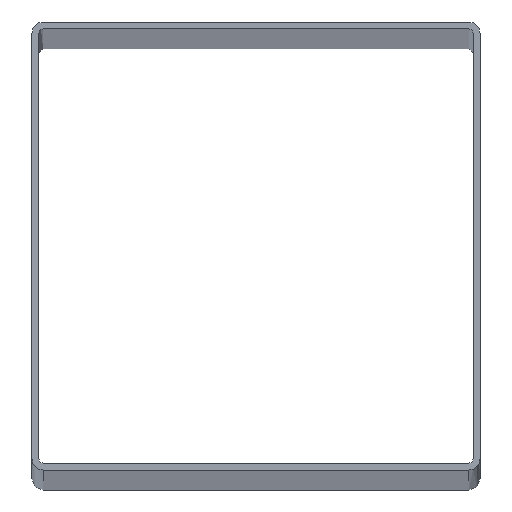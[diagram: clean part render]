
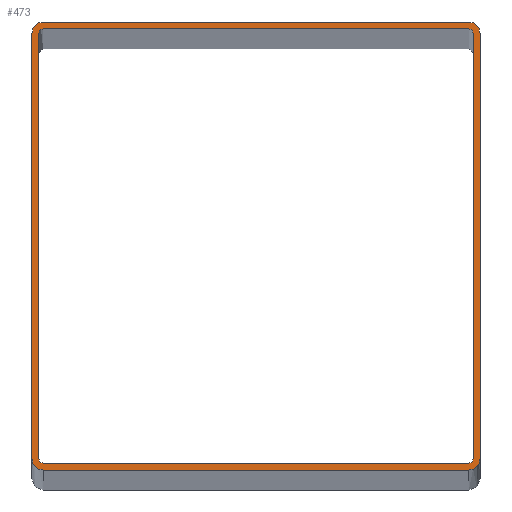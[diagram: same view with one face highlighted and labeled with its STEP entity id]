
A CAD part, top view. The second image highlights one B-rep face of the part: STEP entity #473.
In plain terms, the highlighted planar face has unit normal (0, 0, 1).
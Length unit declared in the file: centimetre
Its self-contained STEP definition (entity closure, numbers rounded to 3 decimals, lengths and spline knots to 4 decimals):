
#8 = LINE ( 'NONE', #256, #261 ) ;
#9 = EDGE_CURVE ( 'NONE', #331, #643, #368, .T. ) ;
#12 = DIRECTION ( 'NONE',  ( 0., -1., 0. ) ) ;
#18 = CARTESIAN_POINT ( 'NONE',  ( 677.9612, -258.5725, 421.9142 ) ) ;
#23 = CARTESIAN_POINT ( 'NONE',  ( 677.7112, -248.8225, 421.9142 ) ) ;
#25 = CARTESIAN_POINT ( 'NONE',  ( 677.9612, -248.7225, 421.9142 ) ) ;
#30 = ORIENTED_EDGE ( 'NONE', *, *, #396, .T. ) ;
#40 = DIRECTION ( 'NONE',  ( -1., 0., 0. ) ) ;
#57 = CARTESIAN_POINT ( 'NONE',  ( 687.5612, -248.8225, 421.9142 ) ) ;
#58 = DIRECTION ( 'NONE',  ( 0., 0., -1. ) ) ;
#72 = LINE ( 'NONE', #475, #437 ) ;
#79 = CARTESIAN_POINT ( 'NONE',  ( 677.9612, -248.5725, 421.9142 ) ) ;
#82 = DIRECTION ( 'NONE',  ( -1., 0., 0. ) ) ;
#83 = VERTEX_POINT ( 'NONE', #259 ) ;
#86 = VERTEX_POINT ( 'NONE', #608 ) ;
#92 = AXIS2_PLACEMENT_3D ( 'NONE', #319, #258, #469 ) ;
#94 = EDGE_LOOP ( 'NONE', ( #404, #605, #281, #521, #633, #318, #143, #428 ) ) ;
#101 = CARTESIAN_POINT ( 'NONE',  ( 677.8612, -248.8225, 421.9142 ) ) ;
#103 = DIRECTION ( 'NONE',  ( -1., 0., 0. ) ) ;
#105 = EDGE_CURVE ( 'NONE', #420, #83, #8, .T. ) ;
#107 = LINE ( 'NONE', #556, #339 ) ;
#109 = EDGE_CURVE ( 'NONE', #140, #331, #299, .T. ) ;
#112 = AXIS2_PLACEMENT_3D ( 'NONE', #184, #147, #103 ) ;
#113 = CARTESIAN_POINT ( 'NONE',  ( 687.4612, -248.8225, 421.9142 ) ) ;
#117 = CARTESIAN_POINT ( 'NONE',  ( 687.4612, -248.8225, 421.9142 ) ) ;
#120 = EDGE_CURVE ( 'NONE', #643, #532, #406, .T. ) ;
#131 = CARTESIAN_POINT ( 'NONE',  ( 687.5612, -258.3225, 421.9142 ) ) ;
#136 = AXIS2_PLACEMENT_3D ( 'NONE', #386, #173, #40 ) ;
#138 = ORIENTED_EDGE ( 'NONE', *, *, #266, .T. ) ;
#140 = VERTEX_POINT ( 'NONE', #414 ) ;
#143 = ORIENTED_EDGE ( 'NONE', *, *, #439, .F. ) ;
#144 = DIRECTION ( 'NONE',  ( 0., 0., 1. ) ) ;
#146 = DIRECTION ( 'NONE',  ( -1., 0., 0. ) ) ;
#147 = DIRECTION ( 'NONE',  ( 0., 0., 1. ) ) ;
#166 = VECTOR ( 'NONE', #198, 100. ) ;
#173 = DIRECTION ( 'NONE',  ( 0., 0., 1. ) ) ;
#184 = CARTESIAN_POINT ( 'NONE',  ( 687.4612, -258.3225, 421.9142 ) ) ;
#192 = ORIENTED_EDGE ( 'NONE', *, *, #205, .T. ) ;
#193 = CARTESIAN_POINT ( 'NONE',  ( 687.4612, -258.5725, 421.9142 ) ) ;
#195 = CIRCLE ( 'NONE', #388, 0.1 ) ;
#198 = DIRECTION ( 'NONE',  ( 0., 1., 0. ) ) ;
#204 = DIRECTION ( 'NONE',  ( 0., 1., 0. ) ) ;
#205 = EDGE_CURVE ( 'NONE', #285, #546, #566, .T. ) ;
#206 = AXIS2_PLACEMENT_3D ( 'NONE', #594, #144, #445 ) ;
#213 = ORIENTED_EDGE ( 'NONE', *, *, #511, .T. ) ;
#217 = VECTOR ( 'NONE', #204, 100. ) ;
#227 = VERTEX_POINT ( 'NONE', #332 ) ;
#238 = DIRECTION ( 'NONE',  ( -1., 0., 0. ) ) ;
#255 = CARTESIAN_POINT ( 'NONE',  ( 687.5612, -248.8225, 421.9142 ) ) ;
#256 = CARTESIAN_POINT ( 'NONE',  ( 677.8612, -248.8225, 421.9142 ) ) ;
#258 = DIRECTION ( 'NONE',  ( 0., 0., 1. ) ) ;
#259 = CARTESIAN_POINT ( 'NONE',  ( 677.8612, -258.3225, 421.9142 ) ) ;
#261 = VECTOR ( 'NONE', #12, 100. ) ;
#266 = EDGE_CURVE ( 'NONE', #440, #385, #490, .T. ) ;
#273 = CIRCLE ( 'NONE', #613, 0.1 ) ;
#275 = CIRCLE ( 'NONE', #634, 0.25 ) ;
#281 = ORIENTED_EDGE ( 'NONE', *, *, #344, .F. ) ;
#285 = VERTEX_POINT ( 'NONE', #376 ) ;
#293 = CIRCLE ( 'NONE', #545, 0.1 ) ;
#295 = EDGE_CURVE ( 'NONE', #564, #420, #195, .T. ) ;
#297 = VERTEX_POINT ( 'NONE', #438 ) ;
#298 = LINE ( 'NONE', #550, #166 ) ;
#299 = LINE ( 'NONE', #365, #419 ) ;
#304 = DIRECTION ( 'NONE',  ( 0., 0., 1. ) ) ;
#307 = FACE_BOUND ( 'NONE', #94, .T. ) ;
#310 = DIRECTION ( 'NONE',  ( 1., 0., 0. ) ) ;
#315 = DIRECTION ( 'NONE',  ( -1., 0., 0. ) ) ;
#318 = ORIENTED_EDGE ( 'NONE', *, *, #109, .F. ) ;
#319 = CARTESIAN_POINT ( 'NONE',  ( 677.9612, -248.8225, 421.9142 ) ) ;
#331 = VERTEX_POINT ( 'NONE', #450 ) ;
#332 = CARTESIAN_POINT ( 'NONE',  ( 677.7112, -248.8225, 421.9142 ) ) ;
#339 = VECTOR ( 'NONE', #310, 100. ) ;
#344 = EDGE_CURVE ( 'NONE', #532, #297, #273, .T. ) ;
#346 = CARTESIAN_POINT ( 'NONE',  ( 687.7112, -248.8225, 421.9142 ) ) ;
#365 = CARTESIAN_POINT ( 'NONE',  ( 677.9612, -258.4225, 421.9142 ) ) ;
#368 = CIRCLE ( 'NONE', #112, 0.1 ) ;
#376 = CARTESIAN_POINT ( 'NONE',  ( 677.7112, -258.3225, 421.9142 ) ) ;
#377 = VERTEX_POINT ( 'NONE', #193 ) ;
#380 = AXIS2_PLACEMENT_3D ( 'NONE', #117, #58, #516 ) ;
#385 = VERTEX_POINT ( 'NONE', #395 ) ;
#386 = CARTESIAN_POINT ( 'NONE',  ( 677.9612, -258.3225, 421.9142 ) ) ;
#387 = ORIENTED_EDGE ( 'NONE', *, *, #499, .T. ) ;
#388 = AXIS2_PLACEMENT_3D ( 'NONE', #639, #535, #592 ) ;
#392 = EDGE_LOOP ( 'NONE', ( #213, #138, #489, #387, #192, #444, #477, #30 ) ) ;
#395 = CARTESIAN_POINT ( 'NONE',  ( 677.9612, -248.5725, 421.9142 ) ) ;
#396 = EDGE_CURVE ( 'NONE', #86, #433, #298, .T. ) ;
#398 = DIRECTION ( 'NONE',  ( 0., 0., 1. ) ) ;
#404 = ORIENTED_EDGE ( 'NONE', *, *, #295, .F. ) ;
#406 = LINE ( 'NONE', #57, #217 ) ;
#409 = DIRECTION ( 'NONE',  ( 0., 0., 1. ) ) ;
#413 = EDGE_CURVE ( 'NONE', #377, #86, #554, .T. ) ;
#414 = CARTESIAN_POINT ( 'NONE',  ( 677.9612, -258.4225, 421.9142 ) ) ;
#419 = VECTOR ( 'NONE', #558, 100. ) ;
#420 = VERTEX_POINT ( 'NONE', #101 ) ;
#428 = ORIENTED_EDGE ( 'NONE', *, *, #105, .F. ) ;
#433 = VERTEX_POINT ( 'NONE', #346 ) ;
#437 = VECTOR ( 'NONE', #583, 100. ) ;
#438 = CARTESIAN_POINT ( 'NONE',  ( 687.4612, -248.7225, 421.9142 ) ) ;
#439 = EDGE_CURVE ( 'NONE', #83, #140, #293, .T. ) ;
#440 = VERTEX_POINT ( 'NONE', #646 ) ;
#444 = ORIENTED_EDGE ( 'NONE', *, *, #569, .T. ) ;
#445 = DIRECTION ( 'NONE',  ( -1., 0., 0. ) ) ;
#450 = CARTESIAN_POINT ( 'NONE',  ( 687.4612, -258.4225, 421.9142 ) ) ;
#456 = DIRECTION ( 'NONE',  ( 0., -1., 0. ) ) ;
#469 = DIRECTION ( 'NONE',  ( -1., 0., 0. ) ) ;
#472 = PLANE ( 'NONE',  #380 ) ;
#473 = ADVANCED_FACE ( 'NONE', ( #622, #307 ), #472, .F. ) ;
#475 = CARTESIAN_POINT ( 'NONE',  ( 677.9612, -248.7225, 421.9142 ) ) ;
#477 = ORIENTED_EDGE ( 'NONE', *, *, #413, .T. ) ;
#482 = EDGE_CURVE ( 'NONE', #385, #227, #600, .T. ) ;
#486 = VECTOR ( 'NONE', #82, 100. ) ;
#489 = ORIENTED_EDGE ( 'NONE', *, *, #482, .T. ) ;
#490 = LINE ( 'NONE', #79, #486 ) ;
#499 = EDGE_CURVE ( 'NONE', #227, #285, #620, .T. ) ;
#511 = EDGE_CURVE ( 'NONE', #433, #440, #275, .T. ) ;
#516 = DIRECTION ( 'NONE',  ( -1., 0., 0. ) ) ;
#521 = ORIENTED_EDGE ( 'NONE', *, *, #120, .F. ) ;
#532 = VERTEX_POINT ( 'NONE', #255 ) ;
#533 = VECTOR ( 'NONE', #456, 100. ) ;
#535 = DIRECTION ( 'NONE',  ( 0., 0., 1. ) ) ;
#544 = CARTESIAN_POINT ( 'NONE',  ( 677.9612, -258.3225, 421.9142 ) ) ;
#545 = AXIS2_PLACEMENT_3D ( 'NONE', #544, #304, #238 ) ;
#546 = VERTEX_POINT ( 'NONE', #18 ) ;
#550 = CARTESIAN_POINT ( 'NONE',  ( 687.7112, -248.8225, 421.9142 ) ) ;
#554 = CIRCLE ( 'NONE', #206, 0.25 ) ;
#556 = CARTESIAN_POINT ( 'NONE',  ( 677.9612, -258.5725, 421.9142 ) ) ;
#558 = DIRECTION ( 'NONE',  ( 1., 0., 0. ) ) ;
#564 = VERTEX_POINT ( 'NONE', #25 ) ;
#566 = CIRCLE ( 'NONE', #136, 0.25 ) ;
#569 = EDGE_CURVE ( 'NONE', #546, #377, #107, .T. ) ;
#583 = DIRECTION ( 'NONE',  ( -1., 0., 0. ) ) ;
#592 = DIRECTION ( 'NONE',  ( -1., 0., 0. ) ) ;
#594 = CARTESIAN_POINT ( 'NONE',  ( 687.4612, -258.3225, 421.9142 ) ) ;
#600 = CIRCLE ( 'NONE', #92, 0.25 ) ;
#605 = ORIENTED_EDGE ( 'NONE', *, *, #640, .F. ) ;
#606 = CARTESIAN_POINT ( 'NONE',  ( 687.4612, -248.8225, 421.9142 ) ) ;
#608 = CARTESIAN_POINT ( 'NONE',  ( 687.7112, -258.3225, 421.9142 ) ) ;
#613 = AXIS2_PLACEMENT_3D ( 'NONE', #606, #398, #146 ) ;
#620 = LINE ( 'NONE', #23, #533 ) ;
#622 = FACE_OUTER_BOUND ( 'NONE', #392, .T. ) ;
#633 = ORIENTED_EDGE ( 'NONE', *, *, #9, .F. ) ;
#634 = AXIS2_PLACEMENT_3D ( 'NONE', #113, #409, #315 ) ;
#639 = CARTESIAN_POINT ( 'NONE',  ( 677.9612, -248.8225, 421.9142 ) ) ;
#640 = EDGE_CURVE ( 'NONE', #297, #564, #72, .T. ) ;
#643 = VERTEX_POINT ( 'NONE', #131 ) ;
#646 = CARTESIAN_POINT ( 'NONE',  ( 687.4612, -248.5725, 421.9142 ) ) ;
